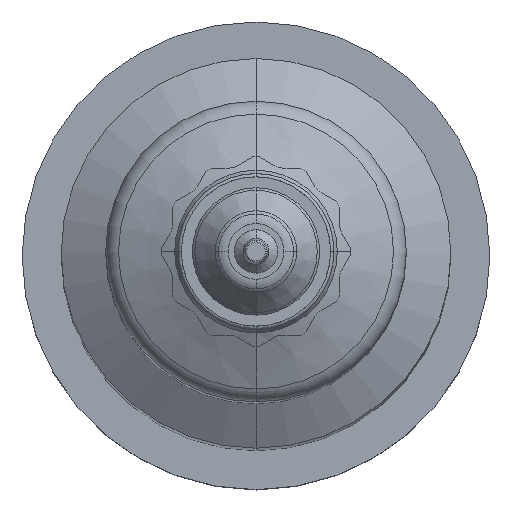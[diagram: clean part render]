
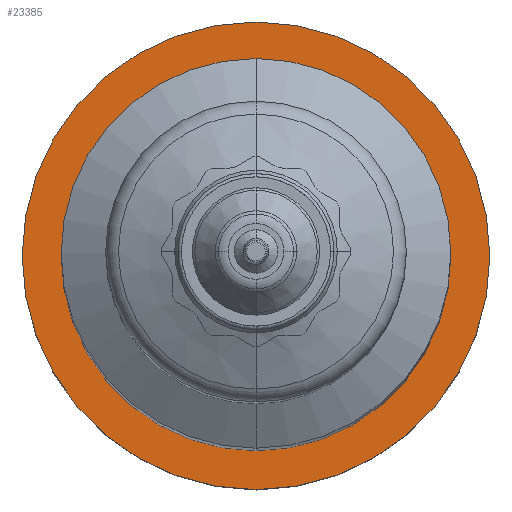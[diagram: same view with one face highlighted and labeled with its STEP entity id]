
A CAD part, top view. The second image highlights one B-rep face of the part: STEP entity #23385.
In plain terms, the highlighted planar face has unit normal (0, 0, 1).
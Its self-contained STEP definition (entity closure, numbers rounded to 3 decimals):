
#1622 = DIRECTION ( 'NONE',  ( 1., 0., 0. ) ) ;
#2863 = AXIS2_PLACEMENT_3D ( 'NONE', #14677, #27532, #5918 ) ;
#3021 = CARTESIAN_POINT ( 'NONE',  ( -21., 0., 15. ) ) ;
#3953 = DIRECTION ( 'NONE',  ( -1., 0., 0. ) ) ;
#4666 = CIRCLE ( 'NONE', #2863, 21. ) ;
#5216 = FACE_BOUND ( 'NONE', #18499, .T. ) ;
#5458 = AXIS2_PLACEMENT_3D ( 'NONE', #21378, #14576, #1622 ) ;
#5918 = DIRECTION ( 'NONE',  ( 1., 0., 0. ) ) ;
#6599 = AXIS2_PLACEMENT_3D ( 'NONE', #24855, #16584, #7854 ) ;
#6725 = AXIS2_PLACEMENT_3D ( 'NONE', #23468, #21328, #23285 ) ;
#7854 = DIRECTION ( 'NONE',  ( -1., 0., 0. ) ) ;
#8627 = CARTESIAN_POINT ( 'NONE',  ( 0., 0., 15. ) ) ;
#9905 = EDGE_CURVE ( 'NONE', #13975, #13969, #4666, .T. ) ;
#13969 = VERTEX_POINT ( 'NONE', #3021 ) ;
#13975 = VERTEX_POINT ( 'NONE', #15877 ) ;
#14107 = CIRCLE ( 'NONE', #18347, 17.5 ) ;
#14528 = ORIENTED_EDGE ( 'NONE', *, *, #20374, .F. ) ;
#14576 = DIRECTION ( 'NONE',  ( 0., 0., -1. ) ) ;
#14677 = CARTESIAN_POINT ( 'NONE',  ( 0., 0., 15. ) ) ;
#15593 = EDGE_LOOP ( 'NONE', ( #22100, #14528 ) ) ;
#15877 = CARTESIAN_POINT ( 'NONE',  ( 21., 0., 15. ) ) ;
#16223 = CIRCLE ( 'NONE', #6725, 17.5 ) ;
#16584 = DIRECTION ( 'NONE',  ( 0., 0., 1. ) ) ;
#17518 = VERTEX_POINT ( 'NONE', #24218 ) ;
#17581 = CIRCLE ( 'NONE', #5458, 21. ) ;
#17639 = FACE_OUTER_BOUND ( 'NONE', #15593, .T. ) ;
#18347 = AXIS2_PLACEMENT_3D ( 'NONE', #8627, #23716, #3953 ) ;
#18499 = EDGE_LOOP ( 'NONE', ( #24745, #26737 ) ) ;
#20374 = EDGE_CURVE ( 'NONE', #13969, #13975, #17581, .T. ) ;
#21162 = EDGE_CURVE ( 'NONE', #17518, #25982, #16223, .T. ) ;
#21328 = DIRECTION ( 'NONE',  ( 0., 0., 1. ) ) ;
#21378 = CARTESIAN_POINT ( 'NONE',  ( 0., 0., 15. ) ) ;
#22100 = ORIENTED_EDGE ( 'NONE', *, *, #9905, .F. ) ;
#23285 = DIRECTION ( 'NONE',  ( -1., 0., 0. ) ) ;
#23385 = ADVANCED_FACE ( 'NONE', ( #5216, #17639 ), #27242, .T. ) ;
#23468 = CARTESIAN_POINT ( 'NONE',  ( 0., 0., 15. ) ) ;
#23716 = DIRECTION ( 'NONE',  ( 0., 0., 1. ) ) ;
#23782 = CARTESIAN_POINT ( 'NONE',  ( 0., -17.5, 15. ) ) ;
#24218 = CARTESIAN_POINT ( 'NONE',  ( 0., 17.5, 15. ) ) ;
#24745 = ORIENTED_EDGE ( 'NONE', *, *, #21162, .F. ) ;
#24855 = CARTESIAN_POINT ( 'NONE',  ( 13.5, 0., 15. ) ) ;
#25982 = VERTEX_POINT ( 'NONE', #23782 ) ;
#26737 = ORIENTED_EDGE ( 'NONE', *, *, #27295, .F. ) ;
#27242 = PLANE ( 'NONE',  #6599 ) ;
#27295 = EDGE_CURVE ( 'NONE', #25982, #17518, #14107, .T. ) ;
#27532 = DIRECTION ( 'NONE',  ( 0., 0., -1. ) ) ;
